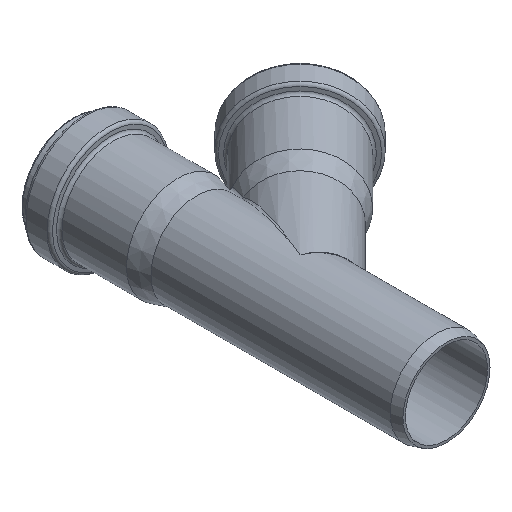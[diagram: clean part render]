
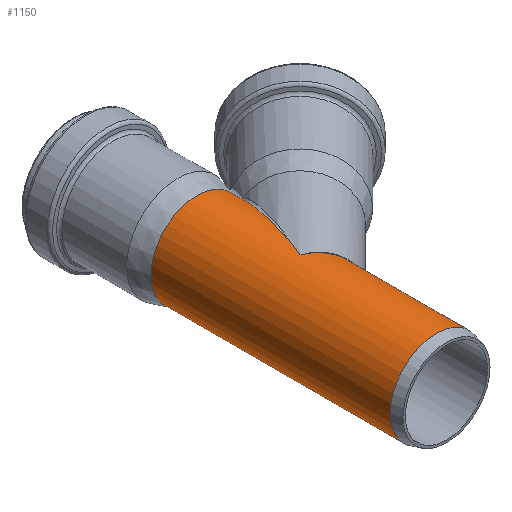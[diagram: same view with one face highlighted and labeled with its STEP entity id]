
A CAD part, isometric view. The second image highlights one B-rep face of the part: STEP entity #1150.
In plain terms, the highlighted cylindrical face has radius 16.1 mm (diameter 32.2 mm), a full revolution.
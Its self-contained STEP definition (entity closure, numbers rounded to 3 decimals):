
#118=CIRCLE('',#1307,16.1);
#119=CIRCLE('',#1309,16.1);
#182=CYLINDRICAL_SURFACE('',#1311,16.1);
#197=B_SPLINE_CURVE_WITH_KNOTS('',3,(#2196,#2197,#2198,#2199,#2200,#2201,
#2202,#2203,#2204,#2205),.UNSPECIFIED.,.F.,.F.,(4,3,3,4),(0.612,
0.615,0.622,0.63),.UNSPECIFIED.);
#205=B_SPLINE_CURVE_WITH_KNOTS('',3,(#2382,#2383,#2384,#2385,#2386,#2387,
#2388),.UNSPECIFIED.,.F.,.F.,(4,3,4),(0.,0.01,
0.013),.UNSPECIFIED.);
#248=FACE_OUTER_BOUND('',#316,.T.);
#316=EDGE_LOOP('',(#957,#958,#959,#960,#961,#962,#963,#964,#965,#966));
#366=LINE('',#2679,#401);
#401=VECTOR('',#1637,16.1);
#422=ELLIPSE('',#1214,44.311,16.1);
#425=ELLIPSE('',#1217,44.311,16.1);
#427=ELLIPSE('',#1219,17.589,16.1);
#428=ELLIPSE('',#1220,17.589,16.1);
#452=VERTEX_POINT('',#2190);
#453=VERTEX_POINT('',#2195);
#458=VERTEX_POINT('',#2328);
#459=VERTEX_POINT('',#2381);
#461=VERTEX_POINT('',#2440);
#462=VERTEX_POINT('',#2479);
#463=VERTEX_POINT('',#2523);
#510=VERTEX_POINT('',#2673);
#578=EDGE_CURVE('',#453,#452,#197,.T.);
#586=EDGE_CURVE('',#459,#458,#205,.T.);
#589=EDGE_CURVE('',#453,#461,#422,.T.);
#592=EDGE_CURVE('',#462,#458,#425,.T.);
#594=EDGE_CURVE('',#461,#463,#427,.T.);
#595=EDGE_CURVE('',#463,#462,#428,.T.);
#667=EDGE_CURVE('',#459,#452,#118,.T.);
#668=EDGE_CURVE('',#510,#510,#119,.T.);
#671=EDGE_CURVE('',#463,#510,#366,.T.);
#957=ORIENTED_EDGE('',*,*,#578,.T.);
#958=ORIENTED_EDGE('',*,*,#667,.F.);
#959=ORIENTED_EDGE('',*,*,#586,.T.);
#960=ORIENTED_EDGE('',*,*,#592,.F.);
#961=ORIENTED_EDGE('',*,*,#595,.F.);
#962=ORIENTED_EDGE('',*,*,#671,.T.);
#963=ORIENTED_EDGE('',*,*,#668,.T.);
#964=ORIENTED_EDGE('',*,*,#671,.F.);
#965=ORIENTED_EDGE('',*,*,#594,.F.);
#966=ORIENTED_EDGE('',*,*,#589,.F.);
#1150=ADVANCED_FACE('',(#248),#182,.T.);
#1214=AXIS2_PLACEMENT_3D('',#2441,#1427,#1428);
#1217=AXIS2_PLACEMENT_3D('',#2481,#1433,#1434);
#1219=AXIS2_PLACEMENT_3D('',#2524,#1437,#1438);
#1220=AXIS2_PLACEMENT_3D('',#2525,#1439,#1440);
#1307=AXIS2_PLACEMENT_3D('',#2671,#1626,#1627);
#1309=AXIS2_PLACEMENT_3D('',#2674,#1630,#1631);
#1311=AXIS2_PLACEMENT_3D('',#2678,#1635,#1636);
#1427=DIRECTION('center_axis',(0.932,-0.363,0.));
#1428=DIRECTION('ref_axis',(0.363,0.932,0.));
#1433=DIRECTION('center_axis',(0.932,-0.363,0.));
#1434=DIRECTION('ref_axis',(0.363,0.932,0.));
#1437=DIRECTION('center_axis',(0.403,0.915,0.));
#1438=DIRECTION('ref_axis',(0.915,-0.403,0.));
#1439=DIRECTION('center_axis',(0.403,0.915,0.));
#1440=DIRECTION('ref_axis',(0.915,-0.403,0.));
#1626=DIRECTION('center_axis',(0.,1.,0.));
#1627=DIRECTION('ref_axis',(1.,0.,0.));
#1630=DIRECTION('center_axis',(0.,1.,0.));
#1631=DIRECTION('ref_axis',(1.,0.,0.));
#1635=DIRECTION('center_axis',(0.,1.,0.));
#1636=DIRECTION('ref_axis',(-1.,0.,0.));
#1637=DIRECTION('',(0.,-1.,0.));
#2190=CARTESIAN_POINT('',(13.888,86.799,8.145));
#2195=CARTESIAN_POINT('',(13.949,86.767,8.04));
#2196=CARTESIAN_POINT('Ctrl Pts',(13.949,86.767,8.04));
#2197=CARTESIAN_POINT('Ctrl Pts',(13.946,86.77,8.045));
#2198=CARTESIAN_POINT('Ctrl Pts',(13.943,86.773,8.05));
#2199=CARTESIAN_POINT('Ctrl Pts',(13.94,86.776,8.055));
#2200=CARTESIAN_POINT('Ctrl Pts',(13.932,86.784,8.069));
#2201=CARTESIAN_POINT('Ctrl Pts',(13.924,86.789,8.083));
#2202=CARTESIAN_POINT('Ctrl Pts',(13.915,86.793,8.098));
#2203=CARTESIAN_POINT('Ctrl Pts',(13.906,86.797,8.113));
#2204=CARTESIAN_POINT('Ctrl Pts',(13.897,86.799,8.129));
#2205=CARTESIAN_POINT('Ctrl Pts',(13.888,86.799,8.145));
#2328=CARTESIAN_POINT('',(13.949,86.767,-8.04));
#2381=CARTESIAN_POINT('',(13.888,86.799,-8.145));
#2382=CARTESIAN_POINT('Ctrl Pts',(13.888,86.799,-8.145));
#2383=CARTESIAN_POINT('Ctrl Pts',(13.904,86.799,-8.117));
#2384=CARTESIAN_POINT('Ctrl Pts',(13.92,86.793,-8.089));
#2385=CARTESIAN_POINT('Ctrl Pts',(13.935,86.781,-8.063));
#2386=CARTESIAN_POINT('Ctrl Pts',(13.94,86.777,-8.055));
#2387=CARTESIAN_POINT('Ctrl Pts',(13.945,86.772,-8.047));
#2388=CARTESIAN_POINT('Ctrl Pts',(13.949,86.767,-8.04));
#2440=CARTESIAN_POINT('',(0.,51.,16.1));
#2441=CARTESIAN_POINT('Origin',(0.,51.,0.));
#2479=CARTESIAN_POINT('',(0.,51.,-16.1));
#2481=CARTESIAN_POINT('Origin',(0.,51.,0.));
#2523=CARTESIAN_POINT('',(16.1,43.917,0.));
#2524=CARTESIAN_POINT('Origin',(0.,51.,0.));
#2525=CARTESIAN_POINT('Origin',(0.,51.,0.));
#2671=CARTESIAN_POINT('Origin',(0.,86.799,0.));
#2673=CARTESIAN_POINT('',(16.1,3.5,0.));
#2674=CARTESIAN_POINT('Origin',(0.,3.5,0.));
#2678=CARTESIAN_POINT('Origin',(0.,45.149,0.));
#2679=CARTESIAN_POINT('',(16.1,45.149,0.));
